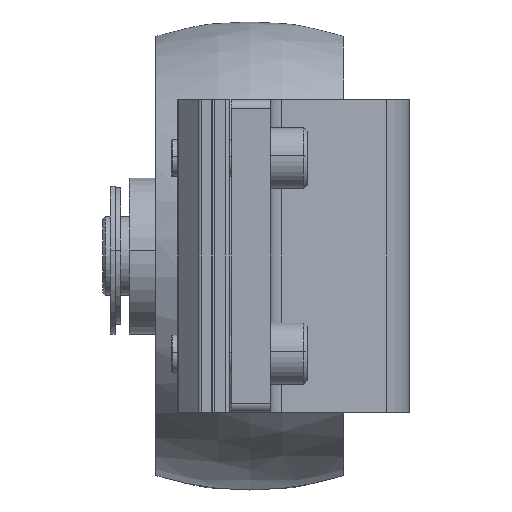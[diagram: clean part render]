
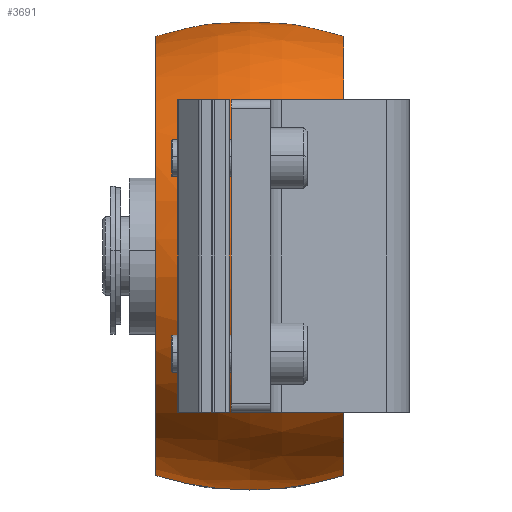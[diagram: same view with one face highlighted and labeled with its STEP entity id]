
A CAD part, left-side view. The second image highlights one B-rep face of the part: STEP entity #3691.
In plain terms, the highlighted free-form (B-spline) face has degree [3, 3] with [7, 4] control points.
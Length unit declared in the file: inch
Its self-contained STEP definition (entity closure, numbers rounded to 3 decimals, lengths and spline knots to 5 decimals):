
#3081=CARTESIAN_POINT('',(0.,0.,0.));
#3082=DIRECTION('',(0.,0.,-1.));
#3083=DIRECTION('',(0.,1.,0.));
#3084=AXIS2_PLACEMENT_3D('',#3081,#3082,#3083);
#3096=CARTESIAN_POINT('',(0.,0.5,
0.6));
#3097=DIRECTION('',(-1.,0.,0.));
#3098=DIRECTION('',(0.,-0.954,-0.3));
#3099=AXIS2_PLACEMENT_3D('',#3096,#3097,#3098);
#3101=CARTESIAN_POINT('',(0.,0.5,
0.6));
#3102=DIRECTION('',(-1.,0.,0.));
#3103=DIRECTION('',(0.,-1.,0.));
#3104=AXIS2_PLACEMENT_3D('',#3101,#3102,#3103);
#3106=CARTESIAN_POINT('',(0.,-0.5,
0.6));
#3107=DIRECTION('',(1.,0.,0.));
#3108=DIRECTION('',(0.,1.,0.));
#3109=AXIS2_PLACEMENT_3D('',#3106,#3107,#3108);
#3111=CARTESIAN_POINT('',(0.,-0.5,
0.6));
#3112=DIRECTION('',(1.,0.,0.));
#3113=DIRECTION('',(0.,0.954,-0.3));
#3114=AXIS2_PLACEMENT_3D('',#3111,#3112,#3113);
#3116=CARTESIAN_POINT('',(0.,0.,1.2));
#3117=DIRECTION('',(0.,0.,1.));
#3118=DIRECTION('',(0.,-1.,0.));
#3119=AXIS2_PLACEMENT_3D('',#3116,#3117,#3118);
#3274=CARTESIAN_POINT('',(0.,1.5,0.6));
#3275=CARTESIAN_POINT('',(0.,1.40788,1.2));
#3276=VERTEX_POINT('',#3274);
#3277=VERTEX_POINT('',#3275);
#3278=CARTESIAN_POINT('',(0.,1.40788,
0.));
#3279=VERTEX_POINT('',#3278);
#3284=CARTESIAN_POINT('',(0.,-1.40788,
0.));
#3285=VERTEX_POINT('',#3284);
#3294=CARTESIAN_POINT('',(0.,-1.40788,1.2));
#3295=VERTEX_POINT('',#3294);
#3300=CARTESIAN_POINT('',(0.,-1.5,0.6));
#3301=VERTEX_POINT('',#3300);
#3653=CARTESIAN_POINT('',(-0.08793,1.39766,
1.22321));
#3654=CARTESIAN_POINT('',(-0.09634,1.5313,
0.81487));
#3655=CARTESIAN_POINT('',(-0.09634,1.5313,
0.38513));
#3656=CARTESIAN_POINT('',(-0.08793,1.39766,
-0.02321));
#3657=CARTESIAN_POINT('',(0.77219,1.45177,1.22321));
#3658=CARTESIAN_POINT('',(0.84602,1.59059,
0.81487));
#3659=CARTESIAN_POINT('',(0.84602,1.59059,
0.38513));
#3660=CARTESIAN_POINT('',(0.77219,1.45177,
-0.02321));
#3661=CARTESIAN_POINT('',(1.40042,0.86182,1.22321));
#3662=CARTESIAN_POINT('',(1.53433,0.94423,
0.81487));
#3663=CARTESIAN_POINT('',(1.53433,0.94423,
0.38513));
#3664=CARTESIAN_POINT('',(1.40042,0.86182,
-0.02321));
#3665=CARTESIAN_POINT('',(1.40042,0.,1.22321));
#3666=CARTESIAN_POINT('',(1.53433,0.,0.81487));
#3667=CARTESIAN_POINT('',(1.53433,0.,0.38513));
#3668=CARTESIAN_POINT('',(1.40042,0.,-0.02321));
#3669=CARTESIAN_POINT('',(1.40042,-0.86182,
1.22321));
#3670=CARTESIAN_POINT('',(1.53433,-0.94423,
0.81487));
#3671=CARTESIAN_POINT('',(1.53433,-0.94423,
0.38513));
#3672=CARTESIAN_POINT('',(1.40042,-0.86182,
-0.02321));
#3673=CARTESIAN_POINT('',(0.77219,-1.45177,
1.22321));
#3674=CARTESIAN_POINT('',(0.84602,-1.59059,
0.81487));
#3675=CARTESIAN_POINT('',(0.84602,-1.59059,
0.38513));
#3676=CARTESIAN_POINT('',(0.77219,-1.45177,
-0.02321));
#3677=CARTESIAN_POINT('',(-0.08793,-1.39766,
1.22321));
#3678=CARTESIAN_POINT('',(-0.09634,-1.5313,
0.81487));
#3679=CARTESIAN_POINT('',(-0.09634,-1.5313,
0.38513));
#3680=CARTESIAN_POINT('',(-0.08793,-1.39766,
-0.02321));
#3681=(BOUNDED_SURFACE()B_SPLINE_SURFACE(3,3,((#3653,#3654,#3655,#3656),(#3657,
#3658,#3659,#3660),(#3661,#3662,#3663,#3664),(#3665,#3666,#3667,#3668),(#3669,
#3670,#3671,#3672),(#3673,#3674,#3675,#3676),(#3677,#3678,#3679,#3680)),
.UNSPECIFIED.,.F.,.F.,.F.)B_SPLINE_SURFACE_WITH_KNOTS((4,3,4),(4,4),(0.,1.,
2.),(0.,1.),.UNSPECIFIED.)GEOMETRIC_REPRESENTATION_ITEM()RATIONAL_B_SPLINE_SURFACE(((1.218,1.177,1.177,1.218),(
0.962,0.93,0.93,0.962),(
0.962,0.93,0.93,0.962),(
1.218,1.177,1.177,1.218),(
0.962,0.93,0.93,0.962),(
0.962,0.93,0.93,0.962),(
1.218,1.177,1.177,1.218)))REPRESENTATION_ITEM('')SURFACE());
#3683=ORIENTED_EDGE('',*,*,#3682,.T.);
#3684=ORIENTED_EDGE('',*,*,#3644,.F.);
#3685=ORIENTED_EDGE('',*,*,#3642,.F.);
#3686=ORIENTED_EDGE('',*,*,#3601,.T.);
#3687=ORIENTED_EDGE('',*,*,#3639,.T.);
#3688=ORIENTED_EDGE('',*,*,#3648,.T.);
#3689=EDGE_LOOP('',(#3683,#3684,#3685,#3686,#3687,#3688));
#3690=FACE_OUTER_BOUND('',#3689,.F.);
#3085=CIRCLE('',#3084,1.40788);
#3100=CIRCLE('',#3099,2.);
#3105=CIRCLE('',#3104,2.);
#3110=CIRCLE('',#3109,2.);
#3115=CIRCLE('',#3114,2.);
#3120=CIRCLE('',#3119,1.40788);
#3601=EDGE_CURVE('',#3279,#3285,#3085,.T.);
#3639=EDGE_CURVE('',#3285,#3301,#3100,.T.);
#3642=EDGE_CURVE('',#3279,#3276,#3115,.T.);
#3644=EDGE_CURVE('',#3276,#3277,#3110,.T.);
#3648=EDGE_CURVE('',#3301,#3295,#3105,.T.);
#3682=EDGE_CURVE('',#3295,#3277,#3120,.T.);
#3691=ADVANCED_FACE('',(#3690),#3681,.T.);
